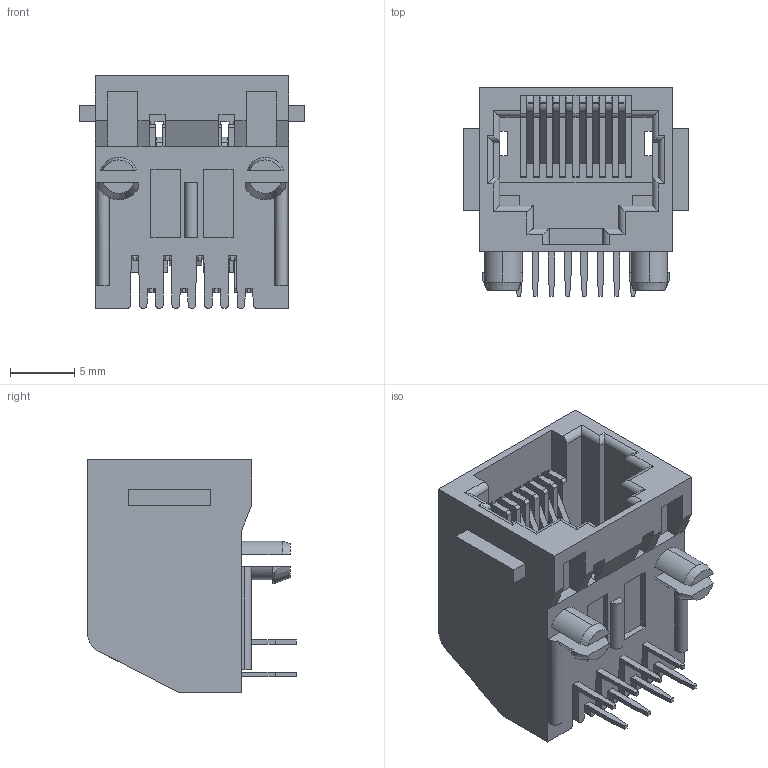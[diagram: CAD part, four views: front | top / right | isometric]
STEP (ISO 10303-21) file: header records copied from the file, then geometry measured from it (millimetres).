
FILE_DESCRIPTION((''),'2;1');
FILE_NAME('AJ-031SH-8-F-L4','2024-04-15T19:00:18',('Administrator'),(''),'CREO PARAMETRIC BY PTC INC, 2019010','CREO PARAMETRIC BY PTC INC, 2019010','');
FILE_SCHEMA(('CONFIG_CONTROL_DESIGN'));
Length unit declared in the file: millimetre
Products named in the file (1): AJ-031SH-8-F-L4
Bounding box: 17.6 x 16.25 x 18.14 mm (x, y, z)
Volume: 1496.7 mm3; surface area: 3205 mm2
Topology: 1 solids, 1 shells, 826 faces, 2542 edges, 1642 vertices
Faces by surface type: plane 603, cylinder 203, bspline 15, cone 4, extrusion 1
Entity records: 29947 total; most frequent: CARTESIAN_POINT 6944, ORIENTED_EDGE 5084, DIRECTION 4500, EDGE_CURVE 2542, VECTOR 2072, LINE 2071, VERTEX_POINT 1642, AXIS2_PLACEMENT_3D 1214
